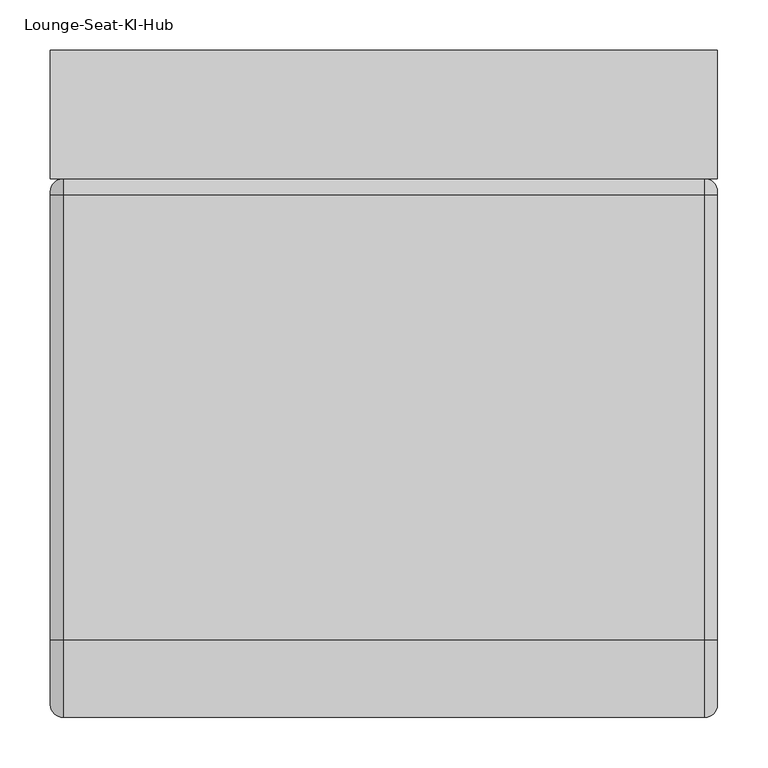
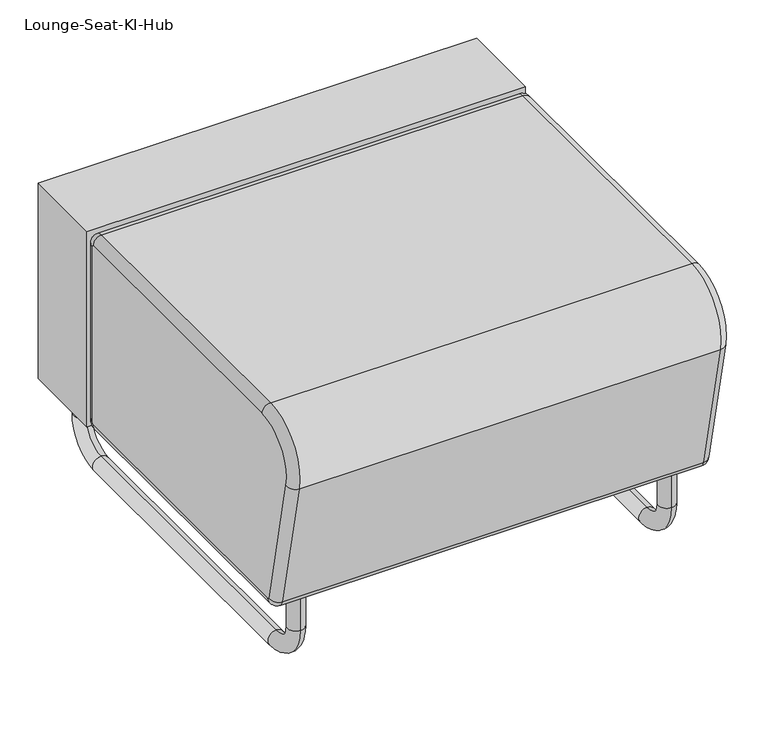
"""IFC4 building model written with IfcOpenShell, lengths in millimetres: furniture geometry."""

import ifcopenshell
import ifcopenshell.guid

model = None  # the IFC model being written
_history = None  # IfcOwnerHistory: only IFC2X3 demands one
_inside = {}  # id of a spatial element -> (the spatial element, [elements in it])
_under = {}  # id of a project, library or spatial element -> (it, [spatial elements below it])
_declared = {}  # id of a project -> (the project, [libraries it declares])
_typed = {}  # id of a type object -> (the type object, [elements of that type])
_made_of = {}  # id of a material, layer set ... -> (it, [elements and type objects made of it])


def new_model(schema):
    """Start an empty IFC model of exactly this schema.

    Asked for "IFC4X3", IfcOpenShell would pick the latest addendum, in which some entities
    have other attributes; the version numbers below select the first issue.
    IFC2X3 requires an IfcOwnerHistory on every rooted entity: one is made here for all.
    """
    global model, _history
    if schema == "IFC4X3":
        model = ifcopenshell.file(schema_version=(4, 3, 0, 0))
    else:
        model = ifcopenshell.file(schema=schema)
    _inside.clear()
    _under.clear()
    _declared.clear()
    _typed.clear()
    _made_of.clear()
    _history = None
    if model.schema == "IFC2X3":
        org = make("IfcOrganization", Name="unknown")
        user = make(
            "IfcPersonAndOrganization",
            ThePerson=make("IfcPerson", FamilyName="unknown"),
            TheOrganization=org,
        )
        app = make(
            "IfcApplication",
            ApplicationDeveloper=org,
            Version="unknown",
            ApplicationFullName="unknown",
            ApplicationIdentifier="unknown",
        )
        _history = make(
            "IfcOwnerHistory",
            OwningUser=user,
            OwningApplication=app,
            ChangeAction="ADDED",
            CreationDate=0,
        )
    return model


def make(cls, **values):
    """One entity of the class cls with the attributes given. An attribute that is None is left unset."""
    return model.create_entity(
        cls, **{name: value for name, value in values.items() if value is not None}
    )


def rooted(cls, **values):
    """An entity with a GlobalId (a new one), such as an element, a storey or a relation."""
    return make(cls, GlobalId=ifcopenshell.guid.new(), OwnerHistory=_history, **values)


def si_unit(unit_type, name, prefix=None):
    """IfcSIUnit, for example si_unit("LENGTHUNIT", "METRE", prefix="MILLI")."""
    return make("IfcSIUnit", UnitType=unit_type, Prefix=prefix, Name=name)


def assignment(units):
    """IfcUnitAssignment: the units of a project."""
    return None if units is None else make("IfcUnitAssignment", Units=units)


def point(xyz):
    """IfcCartesianPoint."""
    return None if xyz is None else make("IfcCartesianPoint", Coordinates=xyz)


def direction(xyz):
    """IfcDirection."""
    return None if xyz is None else make("IfcDirection", DirectionRatios=xyz)


def frame(location, z_axis=None, x_axis=None):
    """IfcAxis2Placement3D, a coordinate frame: its origin and axes. An axis left out is left unset."""
    return make(
        "IfcAxis2Placement3D",
        Location=point(location),
        Axis=direction(z_axis),
        RefDirection=direction(x_axis),
    )


def origin():
    """The frame at (0, 0, 0) with its axes left unset."""
    return frame((0.0, 0.0, 0.0))


def place(relative_to, where):
    """IfcLocalPlacement: puts the frame where relative to a parent placement (None: the world)."""
    return make(
        "IfcLocalPlacement", PlacementRelTo=relative_to, RelativePlacement=where
    )


def context(
    kind, dimensions, precision=None, world=None, true_north=None, identifier=None
):
    """IfcGeometricRepresentationContext, for example the 3D "Model" context."""
    return make(
        "IfcGeometricRepresentationContext",
        ContextIdentifier=identifier,
        ContextType=kind,
        CoordinateSpaceDimension=dimensions,
        Precision=precision,
        WorldCoordinateSystem=world,
        TrueNorth=true_north,
    )


def project(units=None, contexts=None):
    """IfcProject with its units and contexts."""
    return rooted(
        "IfcProject",
        Name="project",
        RepresentationContexts=contexts,
        UnitsInContext=assignment(units),
    )


def spatial(cls, under=None, at=None, **own):
    """A site, building, storey or space (cls), placed at a placement, below another one or the project."""
    s = rooted(cls, ObjectPlacement=at, **own)
    if under is not None:
        _under.setdefault(under.id(), (under, []))[1].append(s)
    return s


def polyline(points):
    """IfcPolyline through the points."""
    return make("IfcPolyline", Points=[point(p) for p in points])


def circle_curve(where, radius):
    """IfcCircle in the frame where."""
    return make("IfcCircle", Position=where, Radius=radius)


def ellipse_curve(where, semi_axis1, semi_axis2):
    """IfcEllipse in the frame where."""
    return make(
        "IfcEllipse", Position=where, SemiAxis1=semi_axis1, SemiAxis2=semi_axis2
    )


def trimmed(basis, trim1, trim2, sense, master):
    """IfcTrimmedCurve: the piece of a basis curve between two trims."""
    return make(
        "IfcTrimmedCurve",
        BasisCurve=basis,
        Trim1=trim1,
        Trim2=trim2,
        SenseAgreement=sense,
        MasterRepresentation=master,
    )


def outline(outer, holes=None, kind="AREA"):
    """IfcArbitraryClosedProfileDef: a profile drawn as a closed curve; with holes, ...WithVoids."""
    if holes is None:
        return make("IfcArbitraryClosedProfileDef", ProfileType=kind, OuterCurve=outer)
    return make(
        "IfcArbitraryProfileDefWithVoids",
        ProfileType=kind,
        OuterCurve=outer,
        InnerCurves=holes,
    )


def extrude(swept, where, along, depth):
    """IfcExtrudedAreaSolid: the profile swept, set in the frame where, extruded along a direction by depth."""
    return make(
        "IfcExtrudedAreaSolid",
        SweptArea=swept,
        Position=where,
        ExtrudedDirection=direction(along),
        Depth=depth,
    )


def shape(context_of_items, identifier, shape_type, items):
    """IfcShapeRepresentation: the items that make up one representation, for example the "Body"."""
    return make(
        "IfcShapeRepresentation",
        ContextOfItems=context_of_items,
        RepresentationIdentifier=identifier,
        RepresentationType=shape_type,
        Items=items,
    )


def source(mapping_origin, context_of_items, identifier, shape_type, items):
    """IfcRepresentationMap: a shape defined once, which mapped items show again and again."""
    return make(
        "IfcRepresentationMap",
        MappingOrigin=mapping_origin,
        MappedRepresentation=shape(context_of_items, identifier, shape_type, items),
    )


def transform(
    local_origin,
    x_axis=None,
    y_axis=None,
    z_axis=None,
    scale=None,
    scale2=None,
    scale3=None,
    uniform=True,
):
    """IfcCartesianTransformationOperator3D, or its non-uniform kind. x_axis, y_axis, z_axis: its Axis1, 2, 3."""
    if uniform:
        return make(
            "IfcCartesianTransformationOperator3D",
            Axis1=direction(x_axis),
            Axis2=direction(y_axis),
            LocalOrigin=point(local_origin),
            Scale=scale,
            Axis3=direction(z_axis),
        )
    return make(
        "IfcCartesianTransformationOperator3DnonUniform",
        Axis1=direction(x_axis),
        Axis2=direction(y_axis),
        LocalOrigin=point(local_origin),
        Scale=scale,
        Axis3=direction(z_axis),
        Scale2=scale2,
        Scale3=scale3,
    )


def mapped(mapping_source, mapping_target):
    """IfcMappedItem: shows the shape of a source again, moved by a transform."""
    return make(
        "IfcMappedItem", MappingSource=mapping_source, MappingTarget=mapping_target
    )


def made_of(thing, what):
    """Note that an element or type object is made of a material, layer set ...; save() writes the relation."""
    if what is not None:
        _made_of.setdefault(what.id(), (what, []))[1].append(thing)
    return thing


def element(
    cls,
    number,
    at=None,
    inside=None,
    cuts=None,
    type_object=None,
    material=None,
    context=None,
    identifier="Body",
    shape_type=None,
    held_by="IfcProductDefinitionShape",
    body=None,
    shapes=None,
    **own,
):
    """One element of the class cls, such as IfcWall. Its Tag is "e" and its number.

    at: its placement. inside: the storey or other place that contains it. cuts: it is an
    opening in that element (IfcRelVoidsElement). A single representation is given by context,
    identifier, shape_type and body (its items); several are given by shapes. held_by: the class
    of the entity that holds the representations. save() writes the other relations.
    """
    e = rooted(cls, Tag="e%d" % number, ObjectPlacement=at, **own)
    if body is not None:
        shapes = [shape(context, identifier, shape_type, body)]
    if shapes is not None:
        e.Representation = make(held_by, Representations=shapes)
    if inside is not None:
        _inside.setdefault(inside.id(), (inside, []))[1].append(e)
    if cuts is not None:
        rooted(
            "IfcRelVoidsElement", RelatingBuildingElement=cuts, RelatedOpeningElement=e
        )
    if type_object is not None:
        _typed.setdefault(type_object.id(), (type_object, []))[1].append(e)
    return made_of(e, material)


def aggregate(whole, parts):
    """IfcRelAggregates: a whole, such as a stair, and the parts it consists of."""
    return rooted("IfcRelAggregates", RelatingObject=whole, RelatedObjects=parts)


def save(model, path):
    """Write the relations noted so far, then the file.

    IfcRelAggregates (storeys below a building ...), IfcRelContainedInSpatialStructure (elements
    in a storey), IfcRelDefinesByType, IfcRelAssociatesMaterial and IfcRelDeclares: one each for
    every whole, place, type object, material and project.
    """
    for whole, parts in _under.values():
        aggregate(whole, parts)
    for where, things in _inside.values():
        rooted(
            "IfcRelContainedInSpatialStructure",
            RelatedElements=things,
            RelatingStructure=where,
        )
    for kind, things in _typed.values():
        rooted("IfcRelDefinesByType", RelatedObjects=things, RelatingType=kind)
    for what, things in _made_of.values():
        rooted("IfcRelAssociatesMaterial", RelatedObjects=things, RelatingMaterial=what)
    for by, libraries in _declared.values():
        rooted("IfcRelDeclares", RelatingContext=by, RelatedDefinitions=libraries)
    model.write(path)


def plane_surface(at):
    """IfcPlane: the flat surface through the origin of the frame at, square to its z axis."""
    return make("IfcPlane", Position=at)


def cylinder_surface(at, radius):
    """IfcCylindricalSurface: all points at the distance radius from the z axis of the frame at."""
    return make("IfcCylindricalSurface", Position=at, Radius=radius)


def revolved_surface(curve, axis_point, axis_direction):
    """IfcSurfaceOfRevolution: the curve turned about the line through axis_point along axis_direction."""
    return make(
        "IfcSurfaceOfRevolution",
        SweptCurve=make("IfcArbitraryOpenProfileDef", ProfileType="CURVE", Curve=curve),
        AxisPosition=make("IfcAxis1Placement", Location=point(axis_point), Axis=direction(axis_direction)),
    )


def advanced_brep(points, edges, surfaces, faces):
    """IfcAdvancedBrep: a solid bounded by faces that lie on surfaces and meet in shared edges.

    An edge is (start, end): straight between two places in points (the first is 0);
    or (start, end, curve); or (start, end, curve, False) where it runs against its curve.
    A face is (place in surfaces, loops), or (place, loops, False) where it looks against
    its surface's normal. A loop lists edges by number (the first is 1), with a minus sign
    where the edge is run from its end to its start. The first loop is the outer one.
    """
    corners = [point(p) for p in points]
    vertices = [make("IfcVertexPoint", VertexGeometry=c) for c in corners]
    made = []
    for start, end, *more in edges:
        made.append(
            make(
                "IfcEdgeCurve",
                EdgeStart=vertices[start],
                EdgeEnd=vertices[end],
                EdgeGeometry=more[0] if more else make("IfcPolyline", Points=[corners[start], corners[end]]),
                SameSense=more[1] if len(more) > 1 else True,
            )
        )
    hull = []
    for where, loops, *sense in faces:
        bounds = []
        for j, loop in enumerate(loops):
            ring = [make("IfcOrientedEdge", EdgeElement=made[abs(k) - 1], Orientation=k > 0) for k in loop]
            bounds.append(
                make(
                    "IfcFaceOuterBound" if j == 0 else "IfcFaceBound",
                    Bound=make("IfcEdgeLoop", EdgeList=ring),
                    Orientation=True,
                )
            )
        hull.append(make("IfcAdvancedFace", Bounds=bounds, FaceSurface=surfaces[where], SameSense=sense[0] if sense else True))
    return make("IfcAdvancedBrep", Outer=make("IfcClosedShell", CfsFaces=hull))


def lounge_seat_ki_hub_917b826c(model_context):
    return source(origin(), model_context, "Body", "SolidModel", [
        advanced_brep(
        [(279.4, -266.7, 120.65), (279.4, -241.3, 120.65), (279.4, -266.7, 63.5), (279.4, -241.3, 63.5), (279.4, -203.2, 25.4), (279.4, -203.2, 0.0), (279.4, 254.0, 0.0), (279.4, 254.0, 25.4), (279.4, 292.1, 63.5), (279.4, 317.5, 63.5), (279.4, 317.5, 120.65), (279.4, 292.1, 120.65)],
        [
            (0, 1, circle_curve(frame((279.4, -254.0, 120.65), z_axis=(0.0, 0.0, 1.0), x_axis=(0.0, 1.0, 0.0)), 12.7)),
            (1, 0, circle_curve(frame((279.4, -254.0, 120.65), z_axis=(0.0, 0.0, 1.0), x_axis=(0.0, 1.0, 0.0)), 12.7)),
            (0, 2),
            (2, 3, circle_curve(frame((279.4, -254.0, 63.5), z_axis=(0.0, 0.0, 1.0), x_axis=(0.0, 1.0, 0.0)), 12.7)),
            (3, 1),
            (3, 2, circle_curve(frame((279.4, -254.0, 63.5), z_axis=(0.0, 0.0, 1.0), x_axis=(0.0, 1.0, 0.0)), 12.7)),
            (4, 3, circle_curve(frame((279.4, -203.2, 63.5), z_axis=(-1.0, 0.0, 0.0), x_axis=(0.0, -1.0, 0.0)), 38.1)),
            (2, 5, circle_curve(frame((279.4, -203.2, 63.5), z_axis=(1.0, 0.0, 0.0), x_axis=(0.0, -1.0, 0.0)), 63.5)),
            (5, 4, circle_curve(frame((279.4, -203.2, 12.7), z_axis=(0.0, -1.0, 0.0), x_axis=(0.0, 0.0, 1.0)), 12.7)),
            (4, 5, circle_curve(frame((279.4, -203.2, 12.7), z_axis=(0.0, -1.0, 0.0), x_axis=(0.0, 0.0, 1.0)), 12.7)),
            (5, 6),
            (6, 7, circle_curve(frame((279.4, 254.0, 12.7), z_axis=(0.0, -1.0, 0.0), x_axis=(0.0, 0.0, 1.0)), 12.7)),
            (7, 4),
            (7, 6, circle_curve(frame((279.4, 254.0, 12.7), z_axis=(0.0, -1.0, 0.0), x_axis=(0.0, 0.0, 1.0)), 12.7)),
            (8, 7, circle_curve(frame((279.4, 254.0, 63.5), z_axis=(-1.0, 0.0, 0.0), x_axis=(0.0, 0.0, -1.0)), 38.1)),
            (6, 9, circle_curve(frame((279.4, 254.0, 63.5), z_axis=(1.0, 0.0, 0.0), x_axis=(0.0, 0.0, -1.0)), 63.5)),
            (9, 8, circle_curve(frame((279.4, 304.8, 63.5), z_axis=(0.0, 0.0, -1.0), x_axis=(0.0, -1.0, 0.0)), 12.7)),
            (8, 9, circle_curve(frame((279.4, 304.8, 63.5), z_axis=(0.0, 0.0, -1.0), x_axis=(0.0, -1.0, 0.0)), 12.7)),
            (10, 11, circle_curve(frame((279.4, 304.8, 120.65), z_axis=(0.0, 0.0, 1.0), x_axis=(0.0, -1.0, 0.0)), 12.7)),
            (11, 10, circle_curve(frame((279.4, 304.8, 120.65), z_axis=(0.0, 0.0, 1.0), x_axis=(0.0, -1.0, 0.0)), 12.7)),
            (9, 10),
            (11, 8),
        ],
        [
            plane_surface(frame((279.4, -254.0, 120.65), z_axis=(0.0, 0.0, 1.0), x_axis=(1.0, 0.0, 0.0))),
            cylinder_surface(frame((279.4, -254.0, 120.65), z_axis=(0.0, 0.0, 1.0), x_axis=(0.0, 1.0, 0.0)), 12.7),
            revolved_surface(trimmed(ellipse_curve(frame((279.4, -254.0, 63.5), z_axis=(0.0, 0.0, 1.0), x_axis=(0.0, 1.0, 0.0)), 12.7, 12.7), [point((279.4, -266.7, 63.5))], [point((279.4, -241.3, 63.5))], True, "CARTESIAN"), (279.4, -203.2, 63.5), (1.0, 0.0, 0.0)),
            revolved_surface(trimmed(ellipse_curve(frame((279.4, -254.0, 63.5), z_axis=(0.0, 0.0, 1.0), x_axis=(0.0, 1.0, 0.0)), 12.7, 12.7), [point((279.4, -241.3, 63.5))], [point((279.4, -266.7, 63.5))], True, "CARTESIAN"), (279.4, -203.2, 63.5), (1.0, 0.0, 0.0)),
            cylinder_surface(frame((279.4, -203.2, 12.7), z_axis=(0.0, -1.0, 0.0), x_axis=(0.0, 0.0, 1.0)), 12.7),
            revolved_surface(trimmed(ellipse_curve(frame((279.4, 254.0, 12.7), z_axis=(0.0, -1.0, 0.0), x_axis=(0.0, 0.0, 1.0)), 12.7, 12.7), [point((279.4, 254.0, 0.0))], [point((279.4, 254.0, 25.4))], True, "CARTESIAN"), (279.4, 254.0, 63.5), (1.0, 0.0, 0.0)),
            revolved_surface(trimmed(ellipse_curve(frame((279.4, 254.0, 12.7), z_axis=(0.0, -1.0, 0.0), x_axis=(0.0, 0.0, 1.0)), 12.7, 12.7), [point((279.4, 254.0, 25.4))], [point((279.4, 254.0, 0.0))], True, "CARTESIAN"), (279.4, 254.0, 63.5), (1.0, 0.0, 0.0)),
            plane_surface(frame((279.4, 304.8, 120.65), z_axis=(0.0, 0.0, 1.0), x_axis=(1.0, 0.0, 0.0))),
            cylinder_surface(frame((279.4, 304.8, 63.5), z_axis=(0.0, 0.0, -1.0), x_axis=(0.0, -1.0, 0.0)), 12.7),
        ],
        [
            (0, [[1, 2]]),
            (1, [[-1, 3, 4, 5]]),
            (1, [[-2, -5, 6, -3]]),
            (2, [[7, -4, 8, 9]]),
            (3, [[-8, -6, -7, 10]]),
            (4, [[-9, 11, 12, 13]]),
            (4, [[-10, -13, 14, -11]]),
            (5, [[15, -12, 16, 17]]),
            (6, [[-16, -14, -15, 18]]),
            (7, [[19, 20]]),
            (8, [[-17, 21, -20, 22]]),
            (8, [[-18, -22, -19, -21]]),
        ],
    ),
        advanced_brep(
        [(-279.4, -266.7, 120.65), (-279.4, -241.3, 120.65), (-279.4, -266.7, 63.5), (-279.4, -241.3, 63.5), (-279.4, -203.2, 25.4), (-279.4, -203.2, 0.0), (-279.4, 254.0, 0.0), (-279.4, 254.0, 25.4), (-279.4, 292.1, 63.5), (-279.4, 317.5, 63.5), (-279.4, 317.5, 120.65), (-279.4, 292.1, 120.65)],
        [
            (0, 1, circle_curve(frame((-279.4, -254.0, 120.65), z_axis=(0.0, 0.0, 1.0), x_axis=(0.0, 1.0, 0.0)), 12.7)),
            (1, 0, circle_curve(frame((-279.4, -254.0, 120.65), z_axis=(0.0, 0.0, 1.0), x_axis=(0.0, 1.0, 0.0)), 12.7)),
            (0, 2),
            (2, 3, circle_curve(frame((-279.4, -254.0, 63.5), z_axis=(0.0, 0.0, 1.0), x_axis=(0.0, 1.0, 0.0)), 12.7)),
            (3, 1),
            (3, 2, circle_curve(frame((-279.4, -254.0, 63.5), z_axis=(0.0, 0.0, 1.0), x_axis=(0.0, 1.0, 0.0)), 12.7)),
            (4, 3, circle_curve(frame((-279.4, -203.2, 63.5), z_axis=(-1.0, 0.0, 0.0), x_axis=(0.0, -1.0, 0.0)), 38.1)),
            (2, 5, circle_curve(frame((-279.4, -203.2, 63.5), z_axis=(1.0, 0.0, 0.0), x_axis=(0.0, -1.0, 0.0)), 63.5)),
            (5, 4, circle_curve(frame((-279.4, -203.2, 12.7), z_axis=(0.0, -1.0, 0.0), x_axis=(0.0, 0.0, 1.0)), 12.7)),
            (4, 5, circle_curve(frame((-279.4, -203.2, 12.7), z_axis=(0.0, -1.0, 0.0), x_axis=(0.0, 0.0, 1.0)), 12.7)),
            (5, 6),
            (6, 7, circle_curve(frame((-279.4, 254.0, 12.7), z_axis=(0.0, -1.0, 0.0), x_axis=(0.0, 0.0, 1.0)), 12.7)),
            (7, 4),
            (7, 6, circle_curve(frame((-279.4, 254.0, 12.7), z_axis=(0.0, -1.0, 0.0), x_axis=(0.0, 0.0, 1.0)), 12.7)),
            (8, 7, circle_curve(frame((-279.4, 254.0, 63.5), z_axis=(-1.0, 0.0, 0.0), x_axis=(0.0, 0.0, -1.0)), 38.1)),
            (6, 9, circle_curve(frame((-279.4, 254.0, 63.5), z_axis=(1.0, 0.0, 0.0), x_axis=(0.0, 0.0, -1.0)), 63.5)),
            (9, 8, circle_curve(frame((-279.4, 304.8, 63.5), z_axis=(0.0, 0.0, -1.0), x_axis=(0.0, -1.0, 0.0)), 12.7)),
            (8, 9, circle_curve(frame((-279.4, 304.8, 63.5), z_axis=(0.0, 0.0, -1.0), x_axis=(0.0, -1.0, 0.0)), 12.7)),
            (10, 11, circle_curve(frame((-279.4, 304.8, 120.65), z_axis=(0.0, 0.0, 1.0), x_axis=(0.0, -1.0, 0.0)), 12.7)),
            (11, 10, circle_curve(frame((-279.4, 304.8, 120.65), z_axis=(0.0, 0.0, 1.0), x_axis=(0.0, -1.0, 0.0)), 12.7)),
            (9, 10),
            (11, 8),
        ],
        [
            plane_surface(frame((-279.4, -254.0, 120.65), z_axis=(0.0, 0.0, 1.0), x_axis=(1.0, 0.0, 0.0))),
            cylinder_surface(frame((-279.4, -254.0, 120.65), z_axis=(0.0, 0.0, 1.0), x_axis=(0.0, 1.0, 0.0)), 12.7),
            revolved_surface(trimmed(ellipse_curve(frame((-279.4, -254.0, 63.5), z_axis=(0.0, 0.0, 1.0), x_axis=(0.0, 1.0, 0.0)), 12.7, 12.7), [point((-279.4, -266.7, 63.5))], [point((-279.4, -241.3, 63.5))], True, "CARTESIAN"), (-279.4, -203.2, 63.5), (1.0, 0.0, 0.0)),
            revolved_surface(trimmed(ellipse_curve(frame((-279.4, -254.0, 63.5), z_axis=(0.0, 0.0, 1.0), x_axis=(0.0, 1.0, 0.0)), 12.7, 12.7), [point((-279.4, -241.3, 63.5))], [point((-279.4, -266.7, 63.5))], True, "CARTESIAN"), (-279.4, -203.2, 63.5), (1.0, 0.0, 0.0)),
            cylinder_surface(frame((-279.4, -203.2, 12.7), z_axis=(0.0, -1.0, 0.0), x_axis=(0.0, 0.0, 1.0)), 12.7),
            revolved_surface(trimmed(ellipse_curve(frame((-279.4, 254.0, 12.7), z_axis=(0.0, -1.0, 0.0), x_axis=(0.0, 0.0, 1.0)), 12.7, 12.7), [point((-279.4, 254.0, 0.0))], [point((-279.4, 254.0, 25.4))], True, "CARTESIAN"), (-279.4, 254.0, 63.5), (1.0, 0.0, 0.0)),
            revolved_surface(trimmed(ellipse_curve(frame((-279.4, 254.0, 12.7), z_axis=(0.0, -1.0, 0.0), x_axis=(0.0, 0.0, 1.0)), 12.7, 12.7), [point((-279.4, 254.0, 25.4))], [point((-279.4, 254.0, 0.0))], True, "CARTESIAN"), (-279.4, 254.0, 63.5), (1.0, 0.0, 0.0)),
            plane_surface(frame((-279.4, 304.8, 120.65), z_axis=(0.0, 0.0, 1.0), x_axis=(1.0, 0.0, 0.0))),
            cylinder_surface(frame((-279.4, 304.8, 63.5), z_axis=(0.0, 0.0, -1.0), x_axis=(0.0, -1.0, 0.0)), 12.7),
        ],
        [
            (0, [[1, 2]]),
            (1, [[-1, 3, 4, 5]]),
            (1, [[-2, -5, 6, -3]]),
            (2, [[7, -4, 8, 9]]),
            (3, [[-8, -6, -7, 10]]),
            (4, [[-9, 11, 12, 13]]),
            (4, [[-10, -13, 14, -11]]),
            (5, [[15, -12, 16, 17]]),
            (6, [[-16, -14, -15, 18]]),
            (7, [[19, 20]]),
            (8, [[-17, 21, -20, 22]]),
            (8, [[-18, -22, -19, -21]]),
        ],
    ),
        extrude(outline(polyline([(330.2, 330.2), (330.2, 203.2), (-330.2, 203.2), (-330.2, 330.2), (330.2, 330.2)])), frame((0.0, 0.0, 120.65), z_axis=(0.0, 0.0, 1.0), x_axis=(1.0, 0.0, 0.0)), (0.0, 0.0, 1.0), 311.15),
        advanced_brep(
        [(330.2, -316.1123726, 342.3976076), (330.2, -254.0, 419.1), (317.5, -254.0, 431.8), (317.5, -328.5348472, 339.7571292), (-317.5, -328.5348472, 339.7571292), (-317.5, -254.0, 431.8), (-330.2, -254.0, 419.1), (-330.2, -316.1123726, 342.3976076), (317.5, -284.6349608, 133.2244019), (330.2, -272.2124863, 135.8648804), (-330.2, -272.2124863, 135.8648804), (-317.5, -284.6349608, 133.2244019), (317.5, -269.1068676, 120.65), (330.2, -269.1068676, 133.35), (-330.2, -269.1068676, 133.35), (-317.5, -269.1068676, 120.65), (317.5, 187.325, 120.65), (330.2, 187.325, 133.35), (-330.2, 187.325, 133.35), (-317.5, 187.325, 120.65), (317.5, 203.2, 136.525), (330.2, 190.5, 136.525), (-330.2, 190.5, 136.525), (-317.5, 203.2, 136.525), (317.5, 203.2, 415.925), (330.2, 190.5, 415.925), (-330.2, 190.5, 415.925), (-317.5, 203.2, 415.925), (317.5, 187.325, 431.8), (330.2, 187.325, 419.1), (-330.2, 187.325, 419.1), (-317.5, 187.325, 431.8)],
        [
            (0, 1, circle_curve(frame((330.2, -254.0, 355.6), z_axis=(-1.0, 0.0, 0.0), x_axis=(0.0, 0.0, 1.0)), 63.5)),
            (1, 2, circle_curve(frame((317.5, -254.0, 419.1), z_axis=(0.0, -1.0, 0.0), x_axis=(0.0, 0.0, -1.0)), 12.7)),
            (2, 3, circle_curve(frame((317.5, -254.0, 355.6), z_axis=(1.0, 0.0, 0.0), x_axis=(0.0, 0.0, 1.0)), 76.2)),
            (3, 0, circle_curve(frame((317.5, -316.1123726, 342.3976076), z_axis=(0.0, -0.20791169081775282, 0.978147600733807), x_axis=(0.0, 0.978147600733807, 0.20791169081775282)), 12.7)),
            (4, 5, circle_curve(frame((-317.5, -254.0, 355.6), z_axis=(-1.0, 0.0, 0.0), x_axis=(0.0, 0.0, 1.0)), 76.2)),
            (5, 6, circle_curve(frame((-317.5, -254.0, 419.1), z_axis=(0.0, -1.0, 0.0), x_axis=(0.0, 0.0, -1.0)), 12.7)),
            (6, 7, circle_curve(frame((-330.2, -254.0, 355.6), z_axis=(1.0, 0.0, 0.0), x_axis=(0.0, 0.0, 1.0)), 63.5)),
            (7, 4, circle_curve(frame((-317.5, -316.1123726, 342.3976076), z_axis=(0.0, -0.2079116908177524, 0.9781476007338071), x_axis=(0.0, 0.9781476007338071, 0.2079116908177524)), 12.7)),
            (2, 5),
            (4, 3),
            (3, 8),
            (8, 9, circle_curve(frame((317.5, -272.2124863, 135.8648804), z_axis=(0.0, -0.2079116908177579, 0.978147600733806), x_axis=(0.0, 0.978147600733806, 0.2079116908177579)), 12.7)),
            (9, 0),
            (7, 10),
            (10, 11, circle_curve(frame((-317.5, -272.2124863, 135.8648804), z_axis=(0.0, -0.2079116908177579, 0.978147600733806), x_axis=(0.0, 0.978147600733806, 0.2079116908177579)), 12.7)),
            (11, 4),
            (11, 8),
            (8, 12, circle_curve(frame((317.5, -269.1068676, 136.525), z_axis=(1.0, 0.0, 0.0), x_axis=(0.0, -0.9781476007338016, -0.2079116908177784)), 15.875)),
            (12, 13, circle_curve(frame((317.5, -269.1068676, 133.35), z_axis=(0.0, -1.0, 0.0), x_axis=(0.0, 0.0, 1.0)), 12.7)),
            (13, 9, circle_curve(frame((330.2, -269.1068676, 136.525), z_axis=(-1.0, 0.0, 0.0), x_axis=(0.0, -0.9781476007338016, -0.2079116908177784)), 3.175)),
            (10, 14, circle_curve(frame((-330.2, -269.1068676, 136.525), z_axis=(1.0, 0.0, 0.0), x_axis=(0.0, -0.9781476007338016, -0.2079116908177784)), 3.175)),
            (14, 15, circle_curve(frame((-317.5, -269.1068676, 133.35), z_axis=(0.0, -0.9999999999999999, 0.0), x_axis=(0.0, 0.0, 0.9999999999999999)), 12.7)),
            (15, 11, circle_curve(frame((-317.5, -269.1068676, 136.525), z_axis=(-1.0, 0.0, 0.0), x_axis=(0.0, -0.9781476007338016, -0.2079116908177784)), 15.875)),
            (15, 12),
            (12, 16),
            (16, 17, circle_curve(frame((317.5, 187.325, 133.35), z_axis=(0.0, -1.0, 0.0), x_axis=(0.0, 0.0, 1.0)), 12.7)),
            (17, 13),
            (14, 18),
            (18, 19, circle_curve(frame((-317.5, 187.325, 133.35), z_axis=(0.0, -1.0, 0.0), x_axis=(0.0, 0.0, 1.0)), 12.7)),
            (19, 15),
            (19, 16),
            (16, 20, circle_curve(frame((317.5, 187.325, 136.525), z_axis=(1.0, 0.0, 0.0), x_axis=(0.0, 0.0, -1.0)), 15.875)),
            (20, 21, circle_curve(frame((317.5, 190.5, 136.525), z_axis=(0.0, 0.0, -1.0), x_axis=(0.0, -1.0, 0.0)), 12.7)),
            (21, 17, circle_curve(frame((330.2, 187.325, 136.525), z_axis=(-1.0, 0.0, 0.0), x_axis=(0.0, 0.0, -1.0)), 3.175)),
            (18, 22, circle_curve(frame((-330.2, 187.325, 136.525), z_axis=(1.0, 0.0, 0.0), x_axis=(0.0, 0.0, -1.0)), 3.175)),
            (22, 23, circle_curve(frame((-317.5, 190.5, 136.525), z_axis=(0.0, 0.0, -1.0), x_axis=(0.0, -1.0, 0.0)), 12.7)),
            (23, 19, circle_curve(frame((-317.5, 187.325, 136.525), z_axis=(-1.0, 0.0, 0.0), x_axis=(0.0, 0.0, -1.0)), 15.875)),
            (23, 20),
            (20, 24),
            (24, 25, circle_curve(frame((317.5, 190.5, 415.925), z_axis=(0.0, 0.0, -1.0), x_axis=(0.0, -1.0, 0.0)), 12.7)),
            (25, 21),
            (22, 26),
            (26, 27, circle_curve(frame((-317.5, 190.5, 415.925), z_axis=(0.0, 0.0, -1.0), x_axis=(0.0, -1.0, 0.0)), 12.7)),
            (27, 23),
            (27, 24),
            (24, 28, circle_curve(frame((317.5, 187.325, 415.925), z_axis=(1.0, 0.0, 0.0), x_axis=(0.0, 1.0, 0.0)), 15.875)),
            (28, 29, circle_curve(frame((317.5, 187.325, 419.1), z_axis=(0.0, 1.0, 0.0), x_axis=(0.0, 0.0, -1.0)), 12.7)),
            (29, 25, circle_curve(frame((330.2, 187.325, 415.925), z_axis=(-1.0, 0.0, 0.0), x_axis=(0.0, 1.0, 0.0)), 3.175)),
            (26, 30, circle_curve(frame((-330.2, 187.325, 415.925), z_axis=(1.0, 0.0, 0.0), x_axis=(0.0, 1.0, 0.0)), 3.175)),
            (30, 31, circle_curve(frame((-317.5, 187.325, 419.1), z_axis=(0.0, 1.0, 0.0), x_axis=(0.0, 0.0, -1.0)), 12.7)),
            (31, 27, circle_curve(frame((-317.5, 187.325, 415.925), z_axis=(-1.0, 0.0, 0.0), x_axis=(0.0, 1.0, 0.0)), 15.875)),
            (31, 28),
            (1, 29),
            (28, 2),
            (6, 30),
            (5, 31),
        ],
        [
            revolved_surface(trimmed(ellipse_curve(frame((317.5, -254.0, 419.1), z_axis=(0.0, 1.0, 0.0), x_axis=(0.0, 0.0, -1.0)), 12.7, 12.7), [point((317.5, -254.0, 431.8))], [point((330.2, -254.0, 419.1))], True, "CARTESIAN"), (0.0, -254.0, 355.6), (1.0, 0.0, 0.0)),
            revolved_surface(trimmed(ellipse_curve(frame((-317.5, -254.0, 419.1), z_axis=(0.0, 1.0, 0.0), x_axis=(0.0, 0.0, -1.0)), 12.7, 12.7), [point((-330.2, -254.0, 419.1))], [point((-317.5, -254.0, 431.8))], True, "CARTESIAN"), (0.0, -254.0, 355.6), (1.0, 0.0, 0.0)),
            cylinder_surface(frame((0.0, -254.0, 355.6), z_axis=(1.0, 0.0, 0.0), x_axis=(0.0, 0.0, 1.0)), 76.2),
            cylinder_surface(frame((317.5, -316.1123726, 342.3976076), z_axis=(0.0, -0.2079116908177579, 0.978147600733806), x_axis=(0.0, 0.978147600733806, 0.2079116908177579)), 12.7),
            cylinder_surface(frame((-317.5, -316.1123726, 342.3976076), z_axis=(0.0, -0.2079116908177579, 0.978147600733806), x_axis=(0.0, 0.978147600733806, 0.2079116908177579)), 12.7),
            plane_surface(frame((-317.5, -328.5348472, 339.7571292), z_axis=(0.0, -0.978147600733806, -0.20791169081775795), x_axis=(0.0, 0.20791169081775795, -0.978147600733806))),
            revolved_surface(trimmed(ellipse_curve(frame((317.5, -272.2124863, 135.8648804), z_axis=(0.0, -0.2079116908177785, 0.9781476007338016), x_axis=(0.0, 0.9781476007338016, 0.2079116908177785)), 12.7, 12.7), [point((317.5, -284.6349608, 133.2244019))], [point((330.2, -272.2124863, 135.8648804))], True, "CARTESIAN"), (0.0, -269.1068676, 136.525), (1.0, 0.0, 0.0)),
            revolved_surface(trimmed(ellipse_curve(frame((-317.5, -272.2124863, 135.8648804), z_axis=(0.0, -0.2079116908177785, 0.9781476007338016), x_axis=(0.0, 0.9781476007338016, 0.2079116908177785)), 12.7, 12.7), [point((-330.2, -272.2124863, 135.8648804))], [point((-317.5, -284.6349608, 133.2244019))], True, "CARTESIAN"), (0.0, -269.1068676, 136.525), (1.0, 0.0, 0.0)),
            cylinder_surface(frame((0.0, -269.1068676, 136.525), z_axis=(1.0, 0.0, 0.0), x_axis=(0.0, -0.9781476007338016, -0.2079116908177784)), 15.875),
            cylinder_surface(frame((317.5, -269.1068676, 133.35), z_axis=(0.0, -1.0, 0.0), x_axis=(0.0, 0.0, 1.0)), 12.7),
            cylinder_surface(frame((-317.5, -269.1068676, 133.35), z_axis=(0.0, -1.0, 0.0), x_axis=(0.0, 0.0, 1.0)), 12.7),
            plane_surface(frame((-317.5, -269.1068676, 120.65), z_axis=(0.0, 0.0, -1.0), x_axis=(0.0, 1.0, 0.0))),
            revolved_surface(trimmed(ellipse_curve(frame((317.5, 187.325, 133.35), z_axis=(0.0, -1.0, 0.0), x_axis=(0.0, 0.0, 1.0)), 12.7, 12.7), [point((317.5, 187.325, 120.65))], [point((330.2, 187.325, 133.35))], True, "CARTESIAN"), (0.0, 187.325, 136.525), (1.0, 0.0, 0.0)),
            revolved_surface(trimmed(ellipse_curve(frame((-317.5, 187.325, 133.35), z_axis=(0.0, -1.0, 0.0), x_axis=(0.0, 0.0, 1.0)), 12.7, 12.7), [point((-330.2, 187.325, 133.35))], [point((-317.5, 187.325, 120.65))], True, "CARTESIAN"), (0.0, 187.325, 136.525), (1.0, 0.0, 0.0)),
            cylinder_surface(frame((0.0, 187.325, 136.525), z_axis=(1.0, 0.0, 0.0), x_axis=(0.0, 0.0, -1.0)), 15.875),
            cylinder_surface(frame((317.5, 190.5, 136.525), z_axis=(0.0, 0.0, -1.0), x_axis=(0.0, -1.0, 0.0)), 12.7),
            cylinder_surface(frame((-317.5, 190.5, 136.525), z_axis=(0.0, 0.0, -1.0), x_axis=(0.0, -1.0, 0.0)), 12.7),
            plane_surface(frame((-317.5, 203.2, 136.525), z_axis=(0.0, 1.0, 0.0), x_axis=(0.0, 0.0, 1.0))),
            revolved_surface(trimmed(ellipse_curve(frame((317.5, 190.5, 415.925), z_axis=(0.0, 0.0, -1.0), x_axis=(0.0, -1.0, 0.0)), 12.7, 12.7), [point((317.5, 203.2, 415.925))], [point((330.2, 190.5, 415.925))], True, "CARTESIAN"), (0.0, 187.325, 415.925), (1.0, 0.0, 0.0)),
            revolved_surface(trimmed(ellipse_curve(frame((-317.5, 190.5, 415.925), z_axis=(0.0, 0.0, -1.0), x_axis=(0.0, -1.0, 0.0)), 12.7, 12.7), [point((-330.2, 190.5, 415.925))], [point((-317.5, 203.2, 415.925))], True, "CARTESIAN"), (0.0, 187.325, 415.925), (1.0, 0.0, 0.0)),
            cylinder_surface(frame((0.0, 187.325, 415.925), z_axis=(1.0, 0.0, 0.0), x_axis=(0.0, 1.0, 0.0)), 15.875),
            cylinder_surface(frame((317.5, 187.325, 419.1), z_axis=(0.0, 1.0, 0.0), x_axis=(0.0, 0.0, -1.0)), 12.7),
            plane_surface(frame((330.2, 187.325, 419.1), z_axis=(1.0, 0.0, 0.0), x_axis=(0.0, -1.0, 0.0))),
            plane_surface(frame((-330.2, 187.325, 418.30625), z_axis=(-1.0, 0.0, 0.0), x_axis=(0.0, -1.0, 0.0))),
            cylinder_surface(frame((-317.5, 187.325, 419.1), z_axis=(0.0, 1.0, 0.0), x_axis=(0.0, 0.0, -1.0)), 12.7),
            plane_surface(frame((-317.5, 187.325, 431.8), z_axis=(0.0, 0.0, 1.0), x_axis=(0.0, -1.0, 0.0))),
        ],
        [
            (0, [[1, 2, 3, 4]]),
            (1, [[5, 6, 7, 8]]),
            (2, [[-3, 9, -5, 10]]),
            (3, [[-4, 11, 12, 13]]),
            (4, [[-8, 14, 15, 16]]),
            (5, [[-10, -16, 17, -11]]),
            (6, [[-12, 18, 19, 20]]),
            (7, [[-15, 21, 22, 23]]),
            (8, [[-17, -23, 24, -18]]),
            (9, [[-19, 25, 26, 27]]),
            (10, [[-22, 28, 29, 30]]),
            (11, [[-24, -30, 31, -25]]),
            (12, [[-26, 32, 33, 34]]),
            (13, [[-29, 35, 36, 37]]),
            (14, [[-31, -37, 38, -32]]),
            (15, [[-33, 39, 40, 41]]),
            (16, [[-36, 42, 43, 44]]),
            (17, [[-38, -44, 45, -39]]),
            (18, [[-40, 46, 47, 48]]),
            (19, [[-43, 49, 50, 51]]),
            (20, [[-45, -51, 52, -46]]),
            (21, [[-2, 53, -47, 54]]),
            (22, [[-1, -13, -20, -27, -34, -41, -48, -53]]),
            (23, [[-7, 55, -49, -42, -35, -28, -21, -14]]),
            (24, [[-6, 56, -50, -55]]),
            (25, [[-9, -54, -52, -56]]),
        ],
    ),
    ])


if __name__ == "__main__":
    model = new_model("IFC4")
    model_context = context("Model", 3, world=origin())
    ifc_project = project(units=[si_unit("LENGTHUNIT", "METRE", prefix="MILLI")], contexts=[model_context])
    site = spatial("IfcSite", under=ifc_project)
    building = spatial("IfcBuilding", under=site)
    placement = place(None, origin())
    lounge_seat_ki_hub_shape = lounge_seat_ki_hub_917b826c(model_context)
    element("IfcFurniture", 1, ObjectType="Lounge-Seat-KI-Hub : 26\"W, Laminate, Non-Contrast, Backless", at=placement, inside=building, context=model_context, shape_type="MappedRepresentation", body=[
        mapped(lounge_seat_ki_hub_shape, transform((0.0, 0.0, 0.0), x_axis=(1.0, 0.0, 0.0), y_axis=(0.0, 1.0, 0.0), z_axis=(0.0, 0.0, 1.0))),
    ])
    save(model, "model.ifc")
